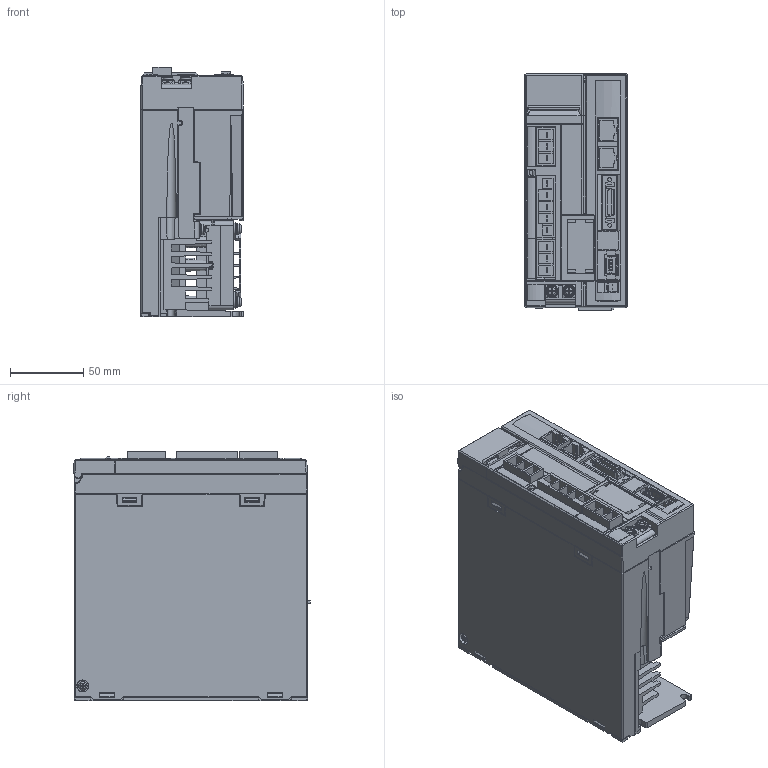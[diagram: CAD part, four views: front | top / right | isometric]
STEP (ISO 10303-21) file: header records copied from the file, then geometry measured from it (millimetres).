
FILE_DESCRIPTION((''),'2;1');
FILE_NAME('PRT0001','2010-09-30T',('sz00398'),(''),'PRO/ENGINEER BY PARAMETRIC TECHNOLOGY CORPORATION, 2006510','PRO/ENGINEER BY PARAMETRIC TECHNOLOGY CORPORATION, 2006510','');
FILE_SCHEMA(('CONFIG_CONTROL_DESIGN'));
Products named in the file (1): PRT0001
Bounding box: 70.05 x 161.86 x 170.6 mm (x, y, z)
Volume: 505115.4 mm3; surface area: 354930.4 mm2
Topology: 2 solids, 3 shells, 2532 faces, 7353 edges, 4748 vertices
Faces by surface type: plane 1983, cylinder 342, cone 101, torus 58, sphere 30, bspline 18
Entity records: 84871 total; most frequent: CARTESIAN_POINT 17850, ORIENTED_EDGE 14670, DIRECTION 13026, EDGE_CURVE 7335, VECTOR 5744, LINE 5744, VERTEX_POINT 4748, AXIS2_PLACEMENT_3D 3641
